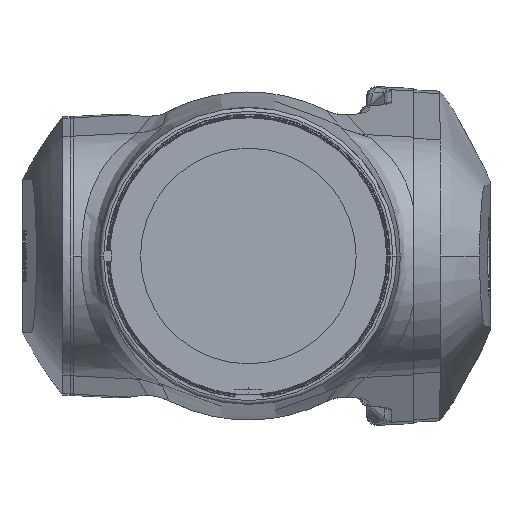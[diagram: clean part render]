
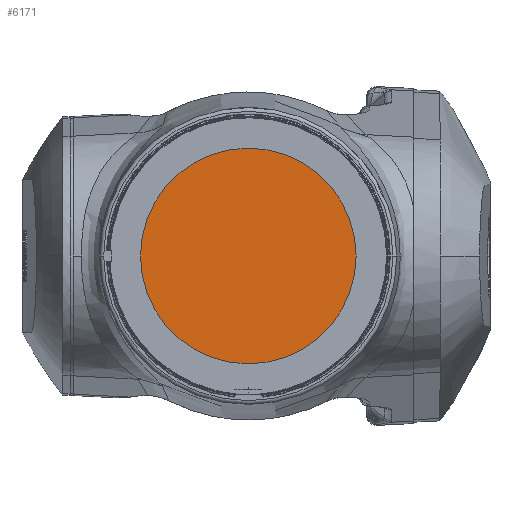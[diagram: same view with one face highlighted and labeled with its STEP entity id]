
A CAD part, left-side view. The second image highlights one B-rep face of the part: STEP entity #6171.
In plain terms, the highlighted planar face has unit normal (-1, 0, 0).
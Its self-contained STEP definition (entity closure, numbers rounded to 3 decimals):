
#1582 = DIRECTION ( 'NONE',  ( 0., -1., 0. ) ) ;
#2181 = CARTESIAN_POINT ( 'NONE',  ( 117., 0., 2274.728 ) ) ;
#3066 = CIRCLE ( 'NONE', #23543, 85. ) ;
#3456 = EDGE_CURVE ( 'NONE', #25221, #9322, #3066, .T. ) ;
#4673 = CARTESIAN_POINT ( 'NONE',  ( 117., 85., 2165. ) ) ;
#6171 = ADVANCED_FACE ( 'NONE', ( #10439 ), #13567, .T. ) ;
#9322 = VERTEX_POINT ( 'NONE', #4673 ) ;
#10439 = FACE_OUTER_BOUND ( 'NONE', #15390, .T. ) ;
#10597 = AXIS2_PLACEMENT_3D ( 'NONE', #2181, #40202, #1582 ) ;
#10788 = DIRECTION ( 'NONE',  ( 1., 0., 0. ) ) ;
#13567 = PLANE ( 'NONE',  #10597 ) ;
#14886 = DIRECTION ( 'NONE',  ( 1., 0., 0. ) ) ;
#15359 = EDGE_CURVE ( 'NONE', #9322, #25221, #40458, .T. ) ;
#15390 = EDGE_LOOP ( 'NONE', ( #39925, #25391 ) ) ;
#22614 = AXIS2_PLACEMENT_3D ( 'NONE', #39135, #10788, #23413 ) ;
#23413 = DIRECTION ( 'NONE',  ( 0., -1., 0. ) ) ;
#23543 = AXIS2_PLACEMENT_3D ( 'NONE', #36935, #14886, #33647 ) ;
#25221 = VERTEX_POINT ( 'NONE', #38432 ) ;
#25391 = ORIENTED_EDGE ( 'NONE', *, *, #15359, .F. ) ;
#33647 = DIRECTION ( 'NONE',  ( 0., -1., 0. ) ) ;
#36935 = CARTESIAN_POINT ( 'NONE',  ( 117., 0., 2165. ) ) ;
#38432 = CARTESIAN_POINT ( 'NONE',  ( 117., -85., 2165. ) ) ;
#39135 = CARTESIAN_POINT ( 'NONE',  ( 117., 0., 2165. ) ) ;
#39925 = ORIENTED_EDGE ( 'NONE', *, *, #3456, .F. ) ;
#40202 = DIRECTION ( 'NONE',  ( -1., 0., 0. ) ) ;
#40458 = CIRCLE ( 'NONE', #22614, 85. ) ;
